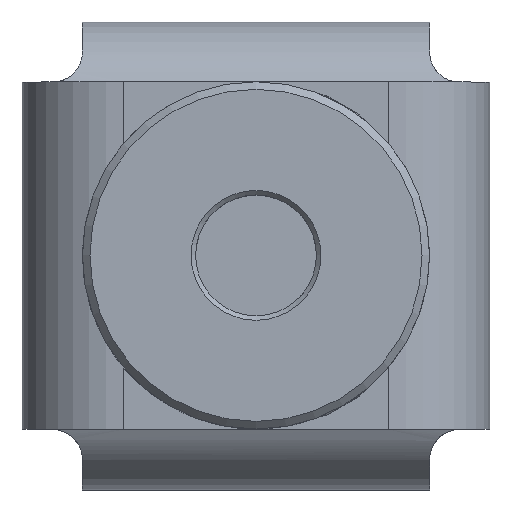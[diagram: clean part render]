
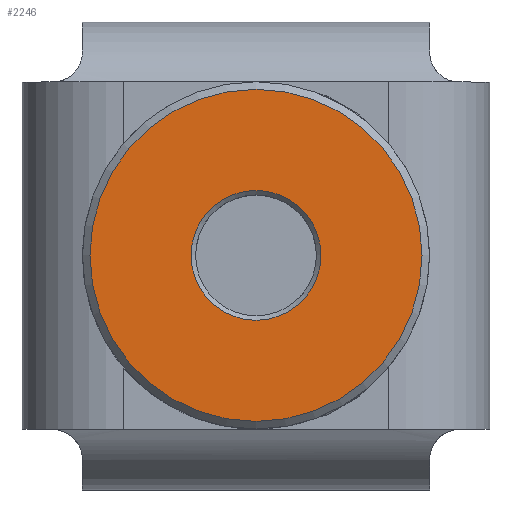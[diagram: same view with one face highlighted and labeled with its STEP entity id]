
A CAD part, top view. The second image highlights one B-rep face of the part: STEP entity #2246.
In plain terms, the highlighted planar face has unit normal (0, 0, 1).
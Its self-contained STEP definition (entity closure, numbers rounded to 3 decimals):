
#419=PLANE($,#2468);
#483=FACE_BOUND($,#778,.T.);
#484=FACE_BOUND($,#779,.T.);
#778=EDGE_LOOP($,(#1724));
#779=EDGE_LOOP($,(#1725));
#911=CIRCLE($,#2466,11.);
#913=CIRCLE($,#2469,4.3);
#1066=VERTEX_POINT($,#3840);
#1068=VERTEX_POINT($,#3845);
#1304=EDGE_CURVE($,#1066,#1066,#911,.T.);
#1306=EDGE_CURVE($,#1068,#1068,#913,.T.);
#1724=ORIENTED_EDGE($,*,*,#1306,.F.);
#1725=ORIENTED_EDGE($,*,*,#1304,.F.);
#2246=ADVANCED_FACE($,(#483,#484),#419,.F.);
#2466=AXIS2_PLACEMENT_3D($,#3841,#2977,#2978);
#2468=AXIS2_PLACEMENT_3D($,#3844,#2981,#2982);
#2469=AXIS2_PLACEMENT_3D($,#3846,#2983,#2984);
#2977=DIRECTION('center_axis',(0.,0.,-1.));
#2978=DIRECTION('ref_axis',(-0.866,0.5,0.));
#2981=DIRECTION('center_axis',(0.,0.,-1.));
#2982=DIRECTION('ref_axis',(-0.866,0.5,0.));
#2983=DIRECTION('center_axis',(0.,0.,1.));
#2984=DIRECTION('ref_axis',(-0.866,0.5,0.));
#3840=CARTESIAN_POINT('',(-15.759,-8.538,30.95));
#3841=CARTESIAN_POINT('Origin',(-25.285,-3.038,30.95));
#3844=CARTESIAN_POINT('Origin',(-25.285,-3.038,30.95));
#3845=CARTESIAN_POINT('',(-21.561,-5.188,30.95));
#3846=CARTESIAN_POINT('Origin',(-25.285,-3.038,30.95));
